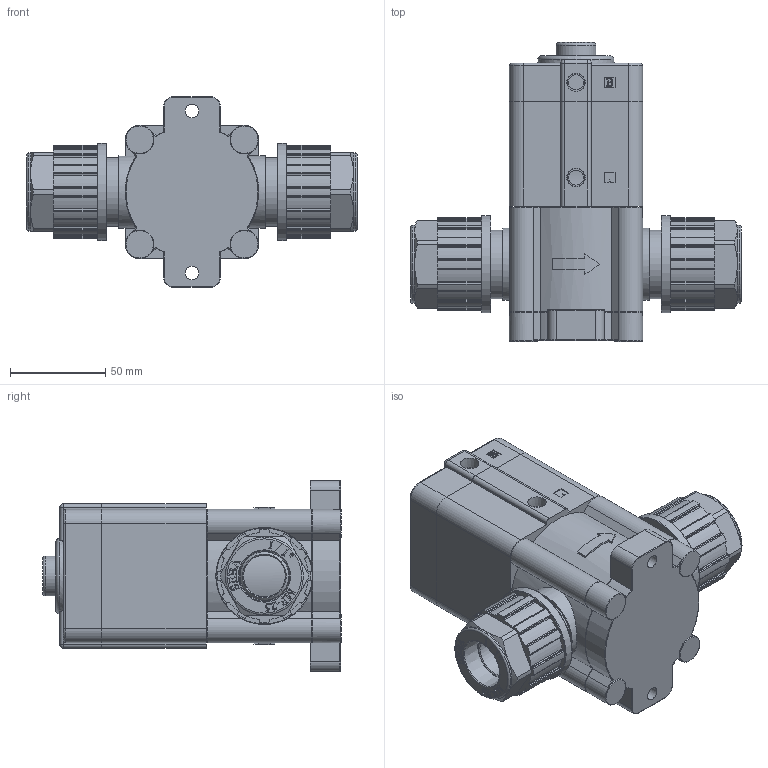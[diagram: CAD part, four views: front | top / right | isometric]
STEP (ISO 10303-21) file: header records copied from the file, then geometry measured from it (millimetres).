
FILE_DESCRIPTION(/* description */ (''),/* implementation_level */ '2;1');
FILE_NAME(/* name */ '132.stp',/* time_stamp */ '2020-01-20T12:18:20+09:00',/* author */ (''),/* organization */ (''),/* preprocessor_version */ 'ST-DEVELOPER v11',/* originating_system */ 'SIEMENS PLM Software NX 7.5',/* authorisation */ '');
FILE_SCHEMA (('AUTOMOTIVE_DESIGN { 1 0 10303 214 1 1 1 1 }'));
Length unit declared in the file: millimetre
Products named in the file (7): PFA_Nut; Cover; base; body; LOWER-CASE-11; UPPER-CASE-11; SANC-PA-MF025-A-0_stp
Assembly tree (7 placements, depth 2):
  SANC-PA-MF025-A-0_stp
    UPPER-CASE-11
    LOWER-CASE-11
    body
    base
    Cover
    PFA_Nut  x2
Bounding box: 174.1 x 157 x 100 mm (x, y, z)
Volume: 822698.6 mm3; surface area: 145283.7 mm2
Topology: 7 solids, 7 shells, 1172 faces, 3156 edges, 2067 vertices
Faces by surface type: plane 540, cylinder 302, bspline 250, torus 46, cone 30, sphere 4
Full cylindrical faces by diameter (mm): 5 x1, 6.5 x12, 6.6 x4, 7 x2, 7.9 x2, 11 x4, 15 x4, 18 x1, 21 x1, 22 x2, 26 x1, 28.8 x2, 32.7 x2, 33 x2, 36 x2, 37 x2, 38 x2, 41 x2, 51 x2, 60 x3
Entity records: 29020 total; most frequent: CARTESIAN_POINT 10747, ORIENTED_EDGE 3866, DIRECTION 3390, EDGE_CURVE 1933, VERTEX_POINT 1303, AXIS2_PLACEMENT_3D 1139, LINE 1112, VECTOR 1112
